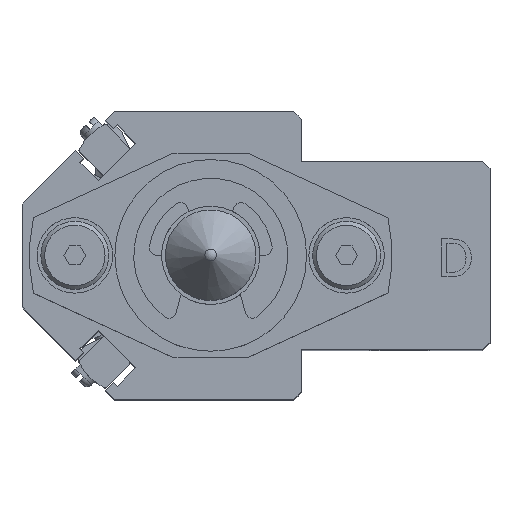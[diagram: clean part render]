
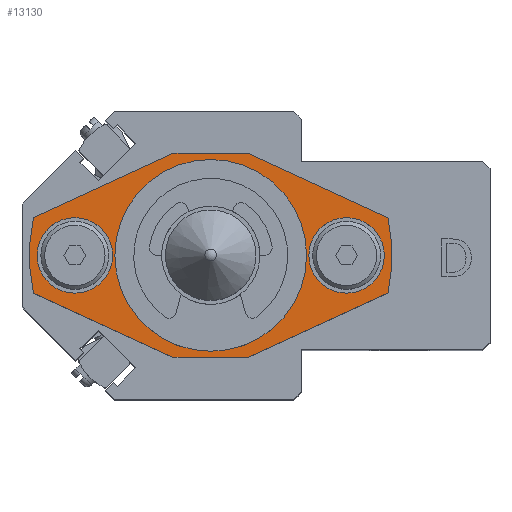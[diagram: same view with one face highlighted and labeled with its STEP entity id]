
A CAD part, top view. The second image highlights one B-rep face of the part: STEP entity #13130.
In plain terms, the highlighted planar face has unit normal (0, 0, 1).
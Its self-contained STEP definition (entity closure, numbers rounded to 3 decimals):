
#368=FACE_BOUND('',#4796,.T.);
#369=FACE_BOUND('',#4797,.T.);
#370=FACE_BOUND('',#4798,.T.);
#1548=LINE('',#21577,#2923);
#1555=LINE('',#21594,#2930);
#1556=LINE('',#21597,#2931);
#1557=LINE('',#21598,#2932);
#1558=LINE('',#21600,#2933);
#1559=LINE('',#21601,#2934);
#2923=VECTOR('',#17504,10.);
#2930=VECTOR('',#17519,10.);
#2931=VECTOR('',#17522,10.);
#2932=VECTOR('',#17523,10.);
#2933=VECTOR('',#17524,10.);
#2934=VECTOR('',#17525,10.);
#3398=CIRCLE('',#14397,10.5);
#3399=CIRCLE('',#14398,10.5);
#3406=CIRCLE('',#14409,24.);
#3408=CIRCLE('',#14412,24.);
#3411=CIRCLE('',#14419,5.);
#3412=CIRCLE('',#14420,5.);
#3413=CIRCLE('',#14421,5.);
#3414=CIRCLE('',#14422,5.);
#4099=FACE_OUTER_BOUND('',#4795,.T.);
#4795=EDGE_LOOP('',(#11034,#11035,#11036,#11037,#11038,#11039,#11040,#11041));
#4796=EDGE_LOOP('',(#11042,#11043));
#4797=EDGE_LOOP('',(#11044,#11045));
#4798=EDGE_LOOP('',(#11046,#11047));
#5978=VERTEX_POINT('',#21535);
#5979=VERTEX_POINT('',#21537);
#5987=VERTEX_POINT('',#21558);
#5988=VERTEX_POINT('',#21560);
#5991=VERTEX_POINT('',#21567);
#5992=VERTEX_POINT('',#21569);
#5994=VERTEX_POINT('',#21575);
#6000=VERTEX_POINT('',#21592);
#6001=VERTEX_POINT('',#21596);
#6002=VERTEX_POINT('',#21599);
#6003=VERTEX_POINT('',#21602);
#6004=VERTEX_POINT('',#21603);
#6005=VERTEX_POINT('',#21606);
#6006=VERTEX_POINT('',#21607);
#7717=EDGE_CURVE('',#5979,#5978,#3398,.T.);
#7718=EDGE_CURVE('',#5978,#5979,#3399,.T.);
#7727=EDGE_CURVE('',#5988,#5987,#3406,.T.);
#7731=EDGE_CURVE('',#5992,#5991,#3408,.T.);
#7735=EDGE_CURVE('',#5987,#5994,#1548,.T.);
#7744=EDGE_CURVE('',#5991,#6000,#1555,.T.);
#7745=EDGE_CURVE('',#5994,#6001,#1556,.T.);
#7746=EDGE_CURVE('',#6001,#5992,#1557,.T.);
#7747=EDGE_CURVE('',#6000,#6002,#1558,.T.);
#7748=EDGE_CURVE('',#6002,#5988,#1559,.T.);
#7749=EDGE_CURVE('',#6003,#6004,#3411,.T.);
#7750=EDGE_CURVE('',#6004,#6003,#3412,.T.);
#7751=EDGE_CURVE('',#6005,#6006,#3413,.T.);
#7752=EDGE_CURVE('',#6006,#6005,#3414,.T.);
#11034=ORIENTED_EDGE('',*,*,#7727,.T.);
#11035=ORIENTED_EDGE('',*,*,#7735,.T.);
#11036=ORIENTED_EDGE('',*,*,#7745,.T.);
#11037=ORIENTED_EDGE('',*,*,#7746,.T.);
#11038=ORIENTED_EDGE('',*,*,#7731,.T.);
#11039=ORIENTED_EDGE('',*,*,#7744,.T.);
#11040=ORIENTED_EDGE('',*,*,#7747,.T.);
#11041=ORIENTED_EDGE('',*,*,#7748,.T.);
#11042=ORIENTED_EDGE('',*,*,#7717,.T.);
#11043=ORIENTED_EDGE('',*,*,#7718,.T.);
#11044=ORIENTED_EDGE('',*,*,#7749,.T.);
#11045=ORIENTED_EDGE('',*,*,#7750,.T.);
#11046=ORIENTED_EDGE('',*,*,#7751,.T.);
#11047=ORIENTED_EDGE('',*,*,#7752,.T.);
#12331=PLANE('',#14418);
#13130=ADVANCED_FACE('',(#4099,#368,#369,#370),#12331,.T.);
#14397=AXIS2_PLACEMENT_3D('',#21538,#17463,#17464);
#14398=AXIS2_PLACEMENT_3D('',#21539,#17465,#17466);
#14409=AXIS2_PLACEMENT_3D('',#21561,#17489,#17490);
#14412=AXIS2_PLACEMENT_3D('',#21570,#17497,#17498);
#14418=AXIS2_PLACEMENT_3D('',#21595,#17520,#17521);
#14419=AXIS2_PLACEMENT_3D('',#21604,#17526,#17527);
#14420=AXIS2_PLACEMENT_3D('',#21605,#17528,#17529);
#14421=AXIS2_PLACEMENT_3D('',#21608,#17530,#17531);
#14422=AXIS2_PLACEMENT_3D('',#21609,#17532,#17533);
#17463=DIRECTION('center_axis',(0.,0.,-1.));
#17464=DIRECTION('ref_axis',(1.,0.,0.));
#17465=DIRECTION('center_axis',(0.,0.,-1.));
#17466=DIRECTION('ref_axis',(1.,0.,0.));
#17489=DIRECTION('center_axis',(0.,0.,1.));
#17490=DIRECTION('ref_axis',(0.978,-0.208,0.));
#17497=DIRECTION('center_axis',(0.,0.,1.));
#17498=DIRECTION('ref_axis',(-0.978,0.208,0.));
#17504=DIRECTION('',(0.908,-0.418,0.));
#17519=DIRECTION('',(-0.908,0.418,0.));
#17520=DIRECTION('center_axis',(0.,0.,1.));
#17521=DIRECTION('ref_axis',(1.,0.,0.));
#17522=DIRECTION('',(1.,0.,0.));
#17523=DIRECTION('',(0.908,0.418,0.));
#17524=DIRECTION('',(-1.,0.,0.));
#17525=DIRECTION('',(-0.908,-0.418,0.));
#17526=DIRECTION('center_axis',(0.,0.,-1.));
#17527=DIRECTION('ref_axis',(1.,0.,0.));
#17528=DIRECTION('center_axis',(0.,0.,-1.));
#17529=DIRECTION('ref_axis',(1.,0.,0.));
#17530=DIRECTION('center_axis',(0.,0.,-1.));
#17531=DIRECTION('ref_axis',(1.,0.,0.));
#17532=DIRECTION('center_axis',(0.,0.,-1.));
#17533=DIRECTION('ref_axis',(1.,0.,0.));
#21535=CARTESIAN_POINT('',(-10.5,0.,6.));
#21537=CARTESIAN_POINT('',(10.5,0.,6.));
#21538=CARTESIAN_POINT('Origin',(0.,0.,6.));
#21539=CARTESIAN_POINT('Origin',(0.,0.,6.));
#21558=CARTESIAN_POINT('',(-23.473,-5.001,6.));
#21560=CARTESIAN_POINT('',(-23.473,5.001,6.));
#21561=CARTESIAN_POINT('Origin',(0.,0.,6.));
#21567=CARTESIAN_POINT('',(23.473,5.001,6.));
#21569=CARTESIAN_POINT('',(23.473,-5.001,6.));
#21570=CARTESIAN_POINT('Origin',(0.,0.,6.));
#21575=CARTESIAN_POINT('',(-5.,-13.5,6.));
#21577=CARTESIAN_POINT('',(-15.7,-8.578,6.));
#21592=CARTESIAN_POINT('',(5.,13.5,6.));
#21594=CARTESIAN_POINT('',(15.7,8.578,6.));
#21595=CARTESIAN_POINT('Origin',(0.,0.,6.));
#21596=CARTESIAN_POINT('',(5.,-13.5,6.));
#21597=CARTESIAN_POINT('',(25.4,-13.5,6.));
#21598=CARTESIAN_POINT('',(15.7,-8.578,6.));
#21599=CARTESIAN_POINT('',(-5.,13.5,6.));
#21600=CARTESIAN_POINT('',(-25.4,13.5,6.));
#21601=CARTESIAN_POINT('',(-15.7,8.578,6.));
#21602=CARTESIAN_POINT('',(-13.,0.,6.));
#21603=CARTESIAN_POINT('',(-23.,0.,6.));
#21604=CARTESIAN_POINT('Origin',(-18.,0.,6.));
#21605=CARTESIAN_POINT('Origin',(-18.,0.,6.));
#21606=CARTESIAN_POINT('',(23.,0.,6.));
#21607=CARTESIAN_POINT('',(13.,0.,6.));
#21608=CARTESIAN_POINT('Origin',(18.,0.,6.));
#21609=CARTESIAN_POINT('Origin',(18.,0.,6.));
